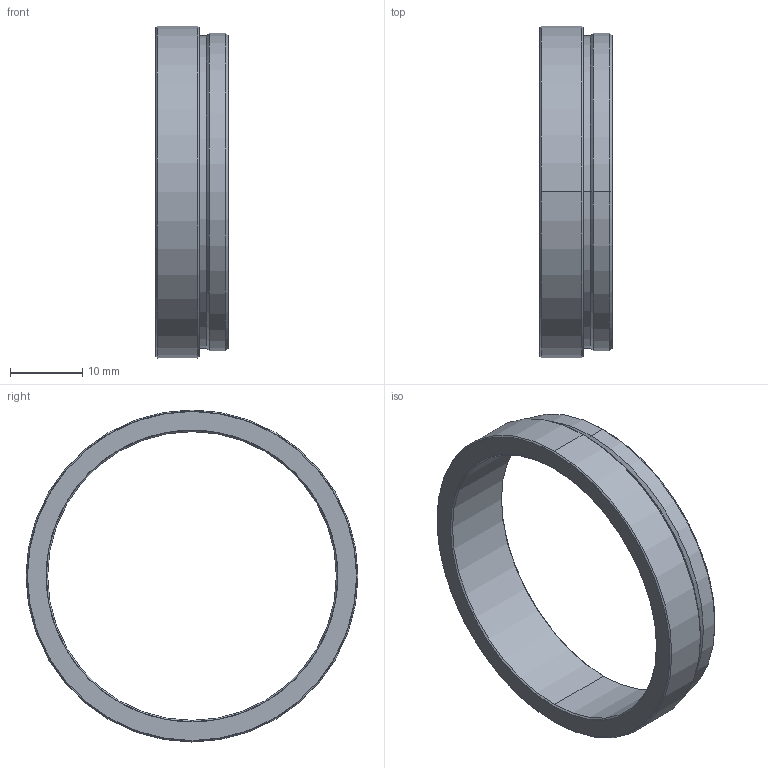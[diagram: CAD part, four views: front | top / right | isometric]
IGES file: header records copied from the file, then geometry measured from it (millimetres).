
Start section: SolidWorks IGES file using analytic representation for surfaces
Global section: file name: C:\Users\sugita_vst\Desktop\AutoCAD恾柺DATA\丒VS-LH_V2 (3D儌僨儖) 仯\VS-LH_V2.IGS; native system: SolidWorks 2018; preprocessor: SolidWorks 2018; author: sugita_vst; date: 181108.090618; units: millimetre
Bounding box: 10 x 46 x 46 mm (x, y, z)
Surface area: 3463.2 mm2 (no closed solid volume)
Topology: 0 solids, 0 shells, 23 faces, 464 edges, 464 vertices
Faces by surface type: revolution 20, bspline 3
